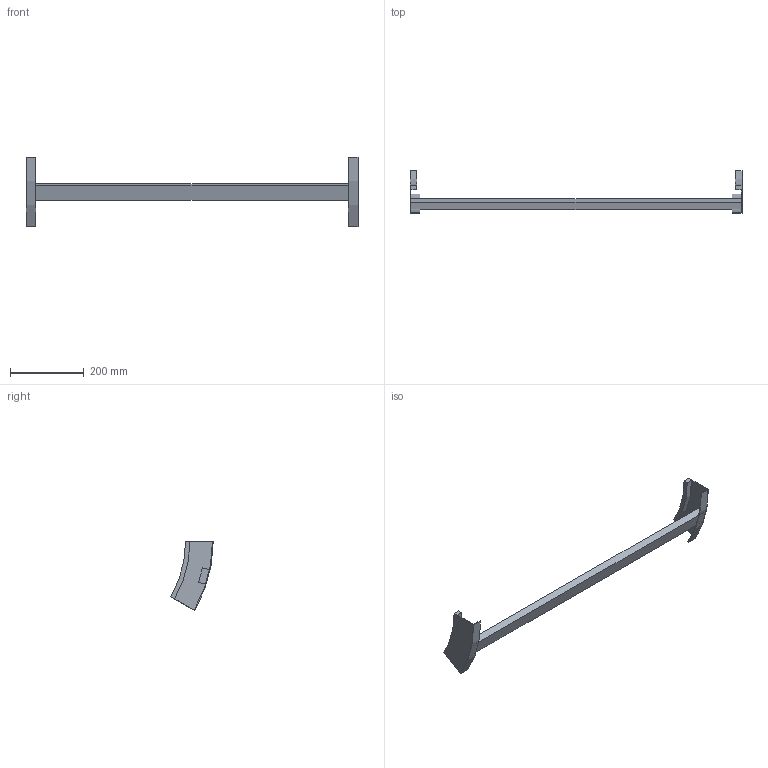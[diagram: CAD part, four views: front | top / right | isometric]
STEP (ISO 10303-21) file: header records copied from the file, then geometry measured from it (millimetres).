
FILE_DESCRIPTION (( 'STEP AP214' ), '1' );
FILE_NAME ('B2X32B3C900XX.step', '2025-03-20T10:03:08', ( '' ), ( '' ), 'SwSTEP 2.0', 'SolidWorks 2023', '' );
FILE_SCHEMA (( 'AUTOMOTIVE_DESIGN' ));
Length unit declared in the file: millimetre
Products named in the file (3): B2_LONGH.SALITA_30°_H75_R300; TRAVERSINO_900; B2X32B3C900XX
Assembly tree (3 placements, depth 2):
  B2X32B3C900XX
    B2_LONGH.SALITA_30°_H75_R300  x2
    TRAVERSINO_900
Bounding box: 900 x 115.19 x 187.5 mm (x, y, z)
Volume: 859881.9 mm3; surface area: 195868.8 mm2
Topology: 3 solids, 3 shells, 26 faces, 60 edges, 40 vertices
Faces by surface type: plane 18, cylinder 8
Entity records: 544 total; most frequent: DIRECTION 88, CARTESIAN_POINT 82, ORIENTED_EDGE 72, EDGE_CURVE 36, AXIS2_PLACEMENT_3D 30, LINE 28, VECTOR 28, VERTEX_POINT 24
